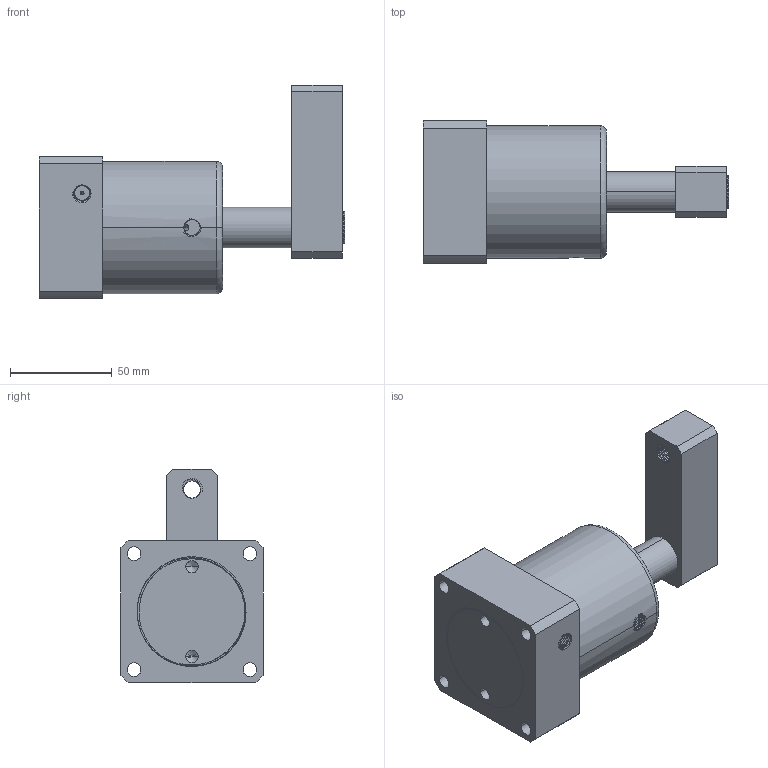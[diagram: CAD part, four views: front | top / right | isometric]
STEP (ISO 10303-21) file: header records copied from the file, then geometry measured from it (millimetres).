
FILE_DESCRIPTION((''),'2;1');
FILE_NAME('ASC-50S_ASM','2010-03-02T',('Administrator'),(''),'PRO/ENGINEER BY PARAMETRIC TECHNOLOGY CORPORATION, 2007170','PRO/ENGINEER BY PARAMETRIC TECHNOLOGY CORPORATION, 2007170','');
FILE_SCHEMA(('CONFIG_CONTROL_DESIGN'));
Length unit declared in the file: millimetre
Products named in the file (6): ASC-50BT; ASC-50SHSG; ASC-50HG; ASC-50SYB; M10LC; ASC-50S_ASM
Assembly tree (5 placements, depth 2):
  ASC-50S_ASM
    ASC-50BT
    ASC-50SHSG
    ASC-50HG
    ASC-50SYB
    M10LC
Bounding box: 150 x 70 x 105 mm (x, y, z)
Volume: 333716.4 mm3; surface area: 84019.3 mm2
Topology: 5 solids, 5 shells, 355 faces, 930 edges, 598 vertices
Faces by surface type: cylinder 188, bspline 53, plane 51, cone 33, torus 30
Entity records: 26497 total; most frequent: CARTESIAN_POINT 18428, ORIENTED_EDGE 1848, DIRECTION 1327, EDGE_CURVE 924, VERTEX_POINT 598, AXIS2_PLACEMENT_3D 502, B_SPLINE_CURVE_WITH_KNOTS 412, EDGE_LOOP 392
